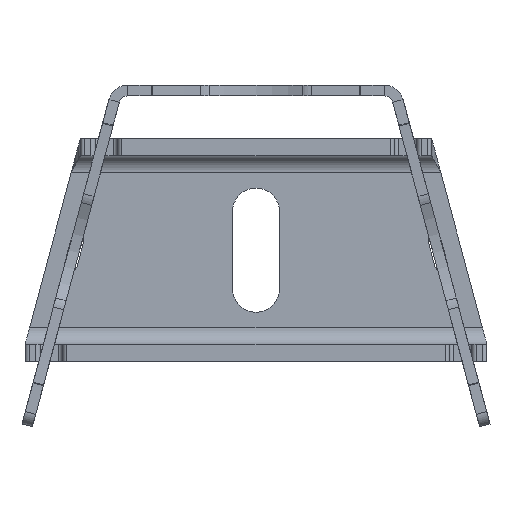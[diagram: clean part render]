
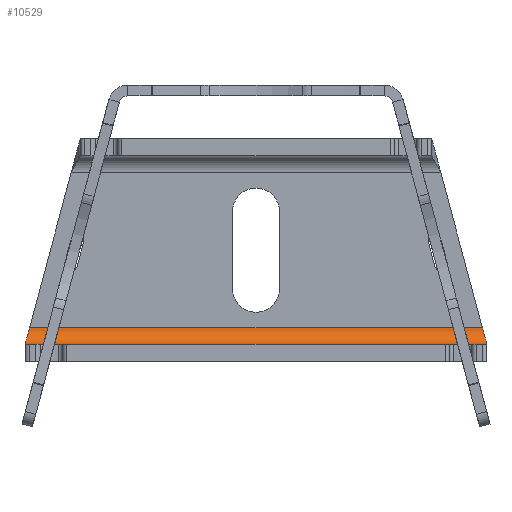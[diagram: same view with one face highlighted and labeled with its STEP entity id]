
A CAD part, front view. The second image highlights one B-rep face of the part: STEP entity #10529.
In plain terms, the highlighted cylindrical face has radius 3.9 mm (diameter 7.8 mm), a partial arc.
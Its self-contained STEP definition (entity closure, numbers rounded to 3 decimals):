
#2947 =( BOUNDED_CURVE ( )  B_SPLINE_CURVE ( 3, ( #9776, #9775, #9767, #9777 ),
 .UNSPECIFIED., .F., .F. ) 
 B_SPLINE_CURVE_WITH_KNOTS ( ( 4, 4 ),
 ( 1.571, 3.142 ),
 .UNSPECIFIED. ) 
 CURVE ( )  GEOMETRIC_REPRESENTATION_ITEM ( )  RATIONAL_B_SPLINE_CURVE ( ( 1., 0.805, 0.805, 1. ) ) 
 REPRESENTATION_ITEM ( '' )  );
#2948 =( BOUNDED_CURVE ( )  B_SPLINE_CURVE ( 3, ( #9780, #9779, #9772, #9781 ),
 .UNSPECIFIED., .F., .F. ) 
 B_SPLINE_CURVE_WITH_KNOTS ( ( 4, 4 ),
 ( 4.712, 6.283 ),
 .UNSPECIFIED. ) 
 CURVE ( )  GEOMETRIC_REPRESENTATION_ITEM ( )  RATIONAL_B_SPLINE_CURVE ( ( 1., 0.805, 0.805, 1. ) ) 
 REPRESENTATION_ITEM ( '' )  );
#3325 = AXIS2_PLACEMENT_3D ( 'NONE', #5054, #5043, #5044 ) ;
#4337 = FACE_OUTER_BOUND ( 'NONE', #12505, .T. ) ;
#4342 = CYLINDRICAL_SURFACE ( 'NONE', #3325, 3.9 ) ;
#5043 = DIRECTION ( 'NONE',  ( 0., 0., -1. ) ) ;
#5044 = DIRECTION ( 'NONE',  ( -1., 0., 0. ) ) ;
#5054 = CARTESIAN_POINT ( 'NONE',  ( 18.1, -3.9, 55. ) ) ;
#9260 = VECTOR ( 'NONE', #10050, 1000. ) ;
#9263 = LINE ( 'NONE', #10049, #9260 ) ;
#9386 = LINE ( 'NONE', #10266, #9389 ) ;
#9389 = VECTOR ( 'NONE', #10267, 1000. ) ;
#9767 = CARTESIAN_POINT ( 'NONE',  ( 22., -1.615, 53.911 ) ) ;
#9772 = CARTESIAN_POINT ( 'NONE',  ( 22., -1.615, -53.911 ) ) ;
#9775 = CARTESIAN_POINT ( 'NONE',  ( 20.385, 0., 53.478 ) ) ;
#9776 = CARTESIAN_POINT ( 'NONE',  ( 18.1, 0., 52.866 ) ) ;
#9777 = CARTESIAN_POINT ( 'NONE',  ( 22., -3.9, 53.911 ) ) ;
#9779 = CARTESIAN_POINT ( 'NONE',  ( 20.385, 0., -53.478 ) ) ;
#9780 = CARTESIAN_POINT ( 'NONE',  ( 18.1, 0., -52.866 ) ) ;
#9781 = CARTESIAN_POINT ( 'NONE',  ( 22., -3.9, -53.911 ) ) ;
#10005 = CARTESIAN_POINT ( 'NONE',  ( 18.1, 0., -52.866 ) ) ;
#10015 = CARTESIAN_POINT ( 'NONE',  ( 18.1, 0., 52.866 ) ) ;
#10027 = CARTESIAN_POINT ( 'NONE',  ( 22., -3.9, 53.911 ) ) ;
#10049 = CARTESIAN_POINT ( 'NONE',  ( 22., -3.9, 55. ) ) ;
#10050 = DIRECTION ( 'NONE',  ( 0., 0., -1. ) ) ;
#10266 = CARTESIAN_POINT ( 'NONE',  ( 18.1, 0., 55. ) ) ;
#10267 = DIRECTION ( 'NONE',  ( 0., 0., -1. ) ) ;
#10323 = CARTESIAN_POINT ( 'NONE',  ( 22., -3.9, -53.911 ) ) ;
#10529 = ADVANCED_FACE ( 'NONE', ( #4337 ), #4342, .F. ) ;
#11270 = EDGE_CURVE ( 'NONE', #12242, #12254, #2947, .T. ) ;
#11272 = EDGE_CURVE ( 'NONE', #12232, #12433, #2948, .T. ) ;
#11769 = ORIENTED_EDGE ( 'NONE', *, *, #12292, .F. ) ;
#11770 = ORIENTED_EDGE ( 'NONE', *, *, #11272, .T. ) ;
#11771 = ORIENTED_EDGE ( 'NONE', *, *, #12379, .T. ) ;
#11772 = ORIENTED_EDGE ( 'NONE', *, *, #11270, .F. ) ;
#12232 = VERTEX_POINT ( 'NONE', #10005 ) ;
#12242 = VERTEX_POINT ( 'NONE', #10015 ) ;
#12254 = VERTEX_POINT ( 'NONE', #10027 ) ;
#12292 = EDGE_CURVE ( 'NONE', #12254, #12433, #9263, .T. ) ;
#12379 = EDGE_CURVE ( 'NONE', #12242, #12232, #9386, .T. ) ;
#12433 = VERTEX_POINT ( 'NONE', #10323 ) ;
#12505 = EDGE_LOOP ( 'NONE', ( #11772, #11771, #11770, #11769 ) ) ;
